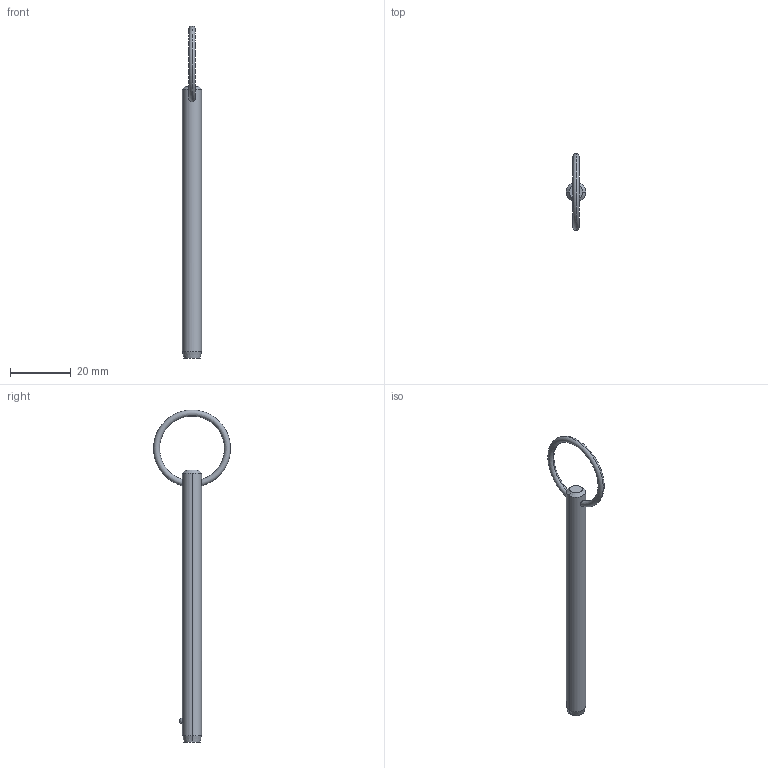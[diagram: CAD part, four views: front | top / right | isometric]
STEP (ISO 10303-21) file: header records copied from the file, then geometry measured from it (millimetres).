
FILE_DESCRIPTION (( 'STEP AP203' ), '1' );
FILE_NAME ('P1250.025-300.step', '2019-07-29T19:44:28', ( '' ), ( '' ), 'SwSTEP 2.0', 'SolidWorks 2017', '' );
FILE_SCHEMA (( 'CONFIG_CONTROL_DESIGN' ));
Length unit declared in the file: millimetre
Products named in the file (1): P1250.025-300
Bounding box: 6.35 x 25.38 x 109.52 mm (x, y, z)
Volume: 3034.4 mm3; surface area: 2246.8 mm2
Topology: 1 solids, 1 shells, 12 faces, 28 edges, 17 vertices
Faces by surface type: cone 4, torus 2, sphere 2, cylinder 2, plane 2
Entity records: 481 total; most frequent: CARTESIAN_POINT 148, DIRECTION 56, ORIENTED_EDGE 48, AXIS2_PLACEMENT_3D 25, EDGE_CURVE 24, VERTEX_POINT 15, EDGE_LOOP 15, CIRCLE 12
